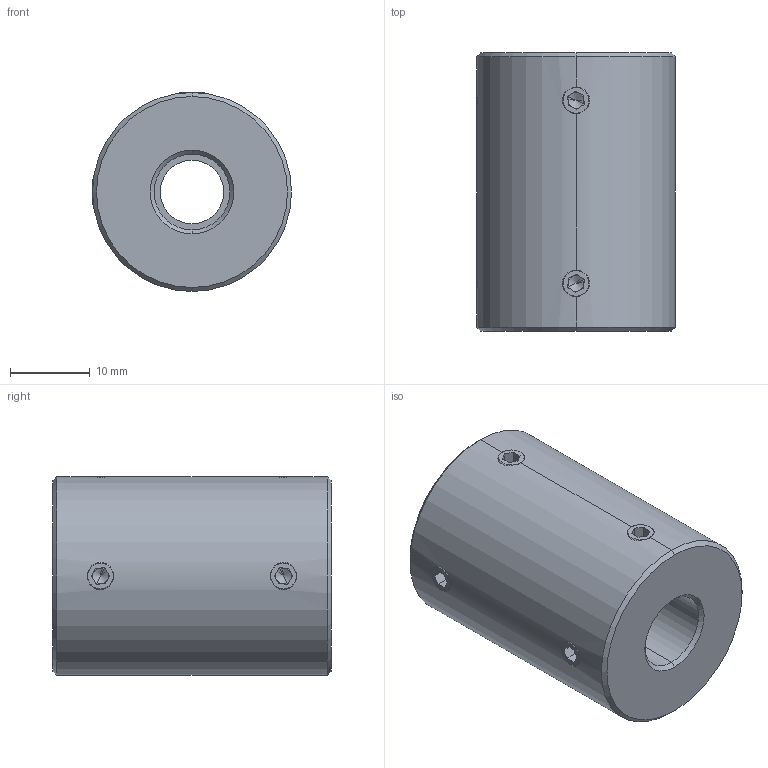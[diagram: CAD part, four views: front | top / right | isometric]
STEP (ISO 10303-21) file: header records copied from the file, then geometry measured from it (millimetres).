
FILE_DESCRIPTION (( 'STEP AP214' ), '1' );
FILE_NAME ('LL-D-D25L35-8-9.525½¨Ä£.STEP', '2022-07-23T00:40:35', ( '' ), ( '' ), 'SwSTEP 2.0', 'SolidWorks 2022', '' );
FILE_SCHEMA (( 'AUTOMOTIVE_DESIGN' ));
Length unit declared in the file: millimetre
Products named in the file (1): LL-D-D25L35-8-9.525膘耀
Bounding box: 25 x 35 x 25 mm (x, y, z)
Volume: 14857.3 mm3; surface area: 4776 mm2
Topology: 1 solids, 1 shells, 113 faces, 286 edges, 176 vertices
Faces by surface type: plane 59, cone 32, cylinder 22
Entity records: 3722 total; most frequent: CARTESIAN_POINT 1012, DIRECTION 558, ORIENTED_EDGE 556, EDGE_CURVE 278, AXIS2_PLACEMENT_3D 206, VERTEX_POINT 176, LINE 146, VECTOR 146
